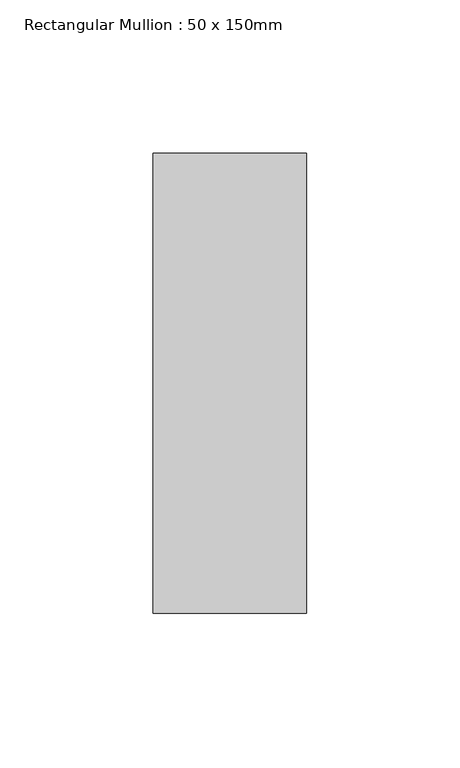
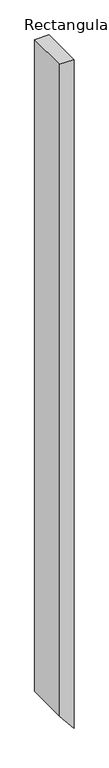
"""IFC4 building model written with IfcOpenShell, lengths in millimetres: member geometry, Rectangular Mullion : 50 x 150mm."""

import ifcopenshell
import ifcopenshell.guid

model = None  # the IFC model being written
_history = None  # IfcOwnerHistory: only IFC2X3 demands one
_inside = {}  # id of a spatial element -> (the spatial element, [elements in it])
_under = {}  # id of a project, library or spatial element -> (it, [spatial elements below it])
_declared = {}  # id of a project -> (the project, [libraries it declares])
_typed = {}  # id of a type object -> (the type object, [elements of that type])
_made_of = {}  # id of a material, layer set ... -> (it, [elements and type objects made of it])


def new_model(schema):
    """Start an empty IFC model of exactly this schema.

    Asked for "IFC4X3", IfcOpenShell would pick the latest addendum, in which some entities
    have other attributes; the version numbers below select the first issue.
    IFC2X3 requires an IfcOwnerHistory on every rooted entity: one is made here for all.
    """
    global model, _history
    if schema == "IFC4X3":
        model = ifcopenshell.file(schema_version=(4, 3, 0, 0))
    else:
        model = ifcopenshell.file(schema=schema)
    _inside.clear()
    _under.clear()
    _declared.clear()
    _typed.clear()
    _made_of.clear()
    _history = None
    if model.schema == "IFC2X3":
        org = make("IfcOrganization", Name="unknown")
        user = make(
            "IfcPersonAndOrganization",
            ThePerson=make("IfcPerson", FamilyName="unknown"),
            TheOrganization=org,
        )
        app = make(
            "IfcApplication",
            ApplicationDeveloper=org,
            Version="unknown",
            ApplicationFullName="unknown",
            ApplicationIdentifier="unknown",
        )
        _history = make(
            "IfcOwnerHistory",
            OwningUser=user,
            OwningApplication=app,
            ChangeAction="ADDED",
            CreationDate=0,
        )
    return model


def make(cls, **values):
    """One entity of the class cls with the attributes given. An attribute that is None is left unset."""
    return model.create_entity(
        cls, **{name: value for name, value in values.items() if value is not None}
    )


def rooted(cls, **values):
    """An entity with a GlobalId (a new one), such as an element, a storey or a relation."""
    return make(cls, GlobalId=ifcopenshell.guid.new(), OwnerHistory=_history, **values)


def si_unit(unit_type, name, prefix=None):
    """IfcSIUnit, for example si_unit("LENGTHUNIT", "METRE", prefix="MILLI")."""
    return make("IfcSIUnit", UnitType=unit_type, Prefix=prefix, Name=name)


def assignment(units):
    """IfcUnitAssignment: the units of a project."""
    return None if units is None else make("IfcUnitAssignment", Units=units)


def point(xyz):
    """IfcCartesianPoint."""
    return None if xyz is None else make("IfcCartesianPoint", Coordinates=xyz)


def direction(xyz):
    """IfcDirection."""
    return None if xyz is None else make("IfcDirection", DirectionRatios=xyz)


def frame(location, z_axis=None, x_axis=None):
    """IfcAxis2Placement3D, a coordinate frame: its origin and axes. An axis left out is left unset."""
    return make(
        "IfcAxis2Placement3D",
        Location=point(location),
        Axis=direction(z_axis),
        RefDirection=direction(x_axis),
    )


def origin():
    """The frame at (0, 0, 0) with its axes left unset."""
    return frame((0.0, 0.0, 0.0))


def place(relative_to, where):
    """IfcLocalPlacement: puts the frame where relative to a parent placement (None: the world)."""
    return make(
        "IfcLocalPlacement", PlacementRelTo=relative_to, RelativePlacement=where
    )


def context(
    kind, dimensions, precision=None, world=None, true_north=None, identifier=None
):
    """IfcGeometricRepresentationContext, for example the 3D "Model" context."""
    return make(
        "IfcGeometricRepresentationContext",
        ContextIdentifier=identifier,
        ContextType=kind,
        CoordinateSpaceDimension=dimensions,
        Precision=precision,
        WorldCoordinateSystem=world,
        TrueNorth=true_north,
    )


def project(units=None, contexts=None):
    """IfcProject with its units and contexts."""
    return rooted(
        "IfcProject",
        Name="project",
        RepresentationContexts=contexts,
        UnitsInContext=assignment(units),
    )


def spatial(cls, under=None, at=None, **own):
    """A site, building, storey or space (cls), placed at a placement, below another one or the project."""
    s = rooted(cls, ObjectPlacement=at, **own)
    if under is not None:
        _under.setdefault(under.id(), (under, []))[1].append(s)
    return s


def polyline(points):
    """IfcPolyline through the points."""
    return make("IfcPolyline", Points=[point(p) for p in points])


def outline(outer, holes=None, kind="AREA"):
    """IfcArbitraryClosedProfileDef: a profile drawn as a closed curve; with holes, ...WithVoids."""
    if holes is None:
        return make("IfcArbitraryClosedProfileDef", ProfileType=kind, OuterCurve=outer)
    return make(
        "IfcArbitraryProfileDefWithVoids",
        ProfileType=kind,
        OuterCurve=outer,
        InnerCurves=holes,
    )


def extrude(swept, where, along, depth):
    """IfcExtrudedAreaSolid: the profile swept, set in the frame where, extruded along a direction by depth."""
    return make(
        "IfcExtrudedAreaSolid",
        SweptArea=swept,
        Position=where,
        ExtrudedDirection=direction(along),
        Depth=depth,
    )


def shape(context_of_items, identifier, shape_type, items):
    """IfcShapeRepresentation: the items that make up one representation, for example the "Body"."""
    return make(
        "IfcShapeRepresentation",
        ContextOfItems=context_of_items,
        RepresentationIdentifier=identifier,
        RepresentationType=shape_type,
        Items=items,
    )


def source(mapping_origin, context_of_items, identifier, shape_type, items):
    """IfcRepresentationMap: a shape defined once, which mapped items show again and again."""
    return make(
        "IfcRepresentationMap",
        MappingOrigin=mapping_origin,
        MappedRepresentation=shape(context_of_items, identifier, shape_type, items),
    )


def transform(
    local_origin,
    x_axis=None,
    y_axis=None,
    z_axis=None,
    scale=None,
    scale2=None,
    scale3=None,
    uniform=True,
):
    """IfcCartesianTransformationOperator3D, or its non-uniform kind. x_axis, y_axis, z_axis: its Axis1, 2, 3."""
    if uniform:
        return make(
            "IfcCartesianTransformationOperator3D",
            Axis1=direction(x_axis),
            Axis2=direction(y_axis),
            LocalOrigin=point(local_origin),
            Scale=scale,
            Axis3=direction(z_axis),
        )
    return make(
        "IfcCartesianTransformationOperator3DnonUniform",
        Axis1=direction(x_axis),
        Axis2=direction(y_axis),
        LocalOrigin=point(local_origin),
        Scale=scale,
        Axis3=direction(z_axis),
        Scale2=scale2,
        Scale3=scale3,
    )


def mapped(mapping_source, mapping_target):
    """IfcMappedItem: shows the shape of a source again, moved by a transform."""
    return make(
        "IfcMappedItem", MappingSource=mapping_source, MappingTarget=mapping_target
    )


def made_of(thing, what):
    """Note that an element or type object is made of a material, layer set ...; save() writes the relation."""
    if what is not None:
        _made_of.setdefault(what.id(), (what, []))[1].append(thing)
    return thing


def element(
    cls,
    number,
    at=None,
    inside=None,
    cuts=None,
    type_object=None,
    material=None,
    context=None,
    identifier="Body",
    shape_type=None,
    held_by="IfcProductDefinitionShape",
    body=None,
    shapes=None,
    **own,
):
    """One element of the class cls, such as IfcWall. Its Tag is "e" and its number.

    at: its placement. inside: the storey or other place that contains it. cuts: it is an
    opening in that element (IfcRelVoidsElement). A single representation is given by context,
    identifier, shape_type and body (its items); several are given by shapes. held_by: the class
    of the entity that holds the representations. save() writes the other relations.
    """
    e = rooted(cls, Tag="e%d" % number, ObjectPlacement=at, **own)
    if body is not None:
        shapes = [shape(context, identifier, shape_type, body)]
    if shapes is not None:
        e.Representation = make(held_by, Representations=shapes)
    if inside is not None:
        _inside.setdefault(inside.id(), (inside, []))[1].append(e)
    if cuts is not None:
        rooted(
            "IfcRelVoidsElement", RelatingBuildingElement=cuts, RelatedOpeningElement=e
        )
    if type_object is not None:
        _typed.setdefault(type_object.id(), (type_object, []))[1].append(e)
    return made_of(e, material)


def aggregate(whole, parts):
    """IfcRelAggregates: a whole, such as a stair, and the parts it consists of."""
    return rooted("IfcRelAggregates", RelatingObject=whole, RelatedObjects=parts)


def save(model, path):
    """Write the relations noted so far, then the file.

    IfcRelAggregates (storeys below a building ...), IfcRelContainedInSpatialStructure (elements
    in a storey), IfcRelDefinesByType, IfcRelAssociatesMaterial and IfcRelDeclares: one each for
    every whole, place, type object, material and project.
    """
    for whole, parts in _under.values():
        aggregate(whole, parts)
    for where, things in _inside.values():
        rooted(
            "IfcRelContainedInSpatialStructure",
            RelatedElements=things,
            RelatingStructure=where,
        )
    for kind, things in _typed.values():
        rooted("IfcRelDefinesByType", RelatedObjects=things, RelatingType=kind)
    for what, things in _made_of.values():
        rooted("IfcRelAssociatesMaterial", RelatedObjects=things, RelatingMaterial=what)
    for by, libraries in _declared.values():
        rooted("IfcRelDeclares", RelatingContext=by, RelatedDefinitions=libraries)
    model.write(path)


def rectangular_mullion_50_x_150mm_a810ca79(model_context):
    return source(origin(), model_context, "Body", "SweptSolid", [
        extrude(outline(polyline([(0.0, 0.0), (0.0, -50.0), (-2392.4376758, -50.0), (-2454.2601394, 0.0), (0.0, 0.0)])), frame((0.0, -75.0, 0.0), z_axis=(0.0, 1.0, 0.0), x_axis=(0.0, 0.0, 1.0)), (0.0, 0.0, 1.0), 150.0),
    ])


if __name__ == "__main__":
    model = new_model("IFC4")
    model_context = context("Model", 3, world=origin())
    ifc_project = project(units=[si_unit("LENGTHUNIT", "METRE", prefix="MILLI")], contexts=[model_context])
    site = spatial("IfcSite", under=ifc_project)
    building = spatial("IfcBuilding", under=site)
    placement = place(None, origin())
    rectangular_mullion_50_x_150mm_shape = rectangular_mullion_50_x_150mm_a810ca79(model_context)
    element("IfcMember", 1, ObjectType="Rectangular Mullion : 50 x 150mm", at=placement, inside=building, context=model_context, shape_type="MappedRepresentation", body=[
        mapped(rectangular_mullion_50_x_150mm_shape, transform((0.0, 0.0, 0.0), x_axis=(1.0, 0.0, 0.0), y_axis=(0.0, 1.0, 0.0), z_axis=(0.0, 0.0, 1.0))),
    ])
    save(model, "model.ifc")
